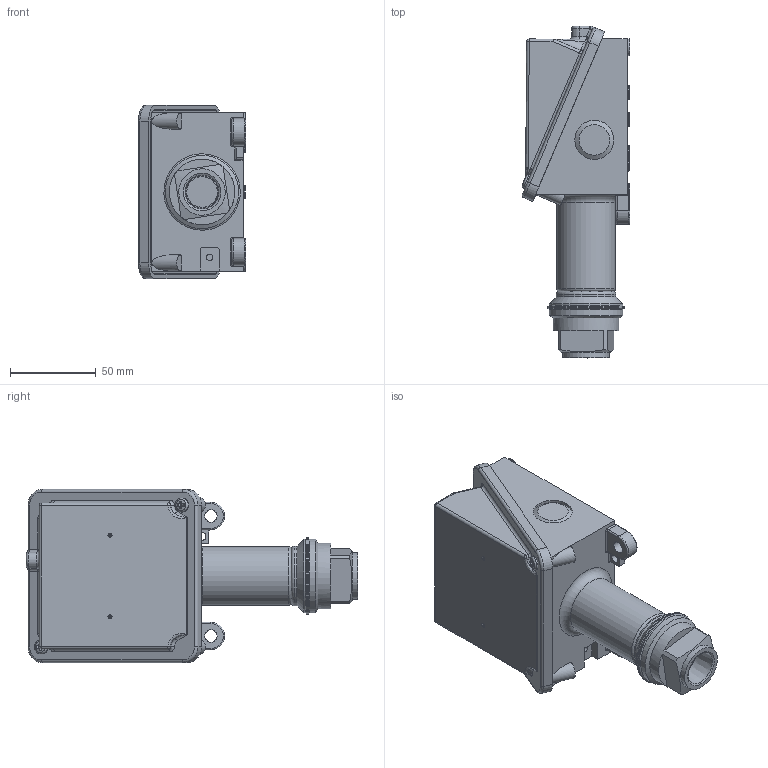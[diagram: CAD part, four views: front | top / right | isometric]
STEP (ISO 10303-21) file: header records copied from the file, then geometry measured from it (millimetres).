
FILE_DESCRIPTION (( 'STEP AP214' ), '1' );
FILE_NAME ('H100-171_174_V2.STEP', '2025-02-28T13:51:30', ( '' ), ( '' ), 'SwSTEP 2.0', 'SolidWorks 2023', '' );
FILE_SCHEMA (( 'AUTOMOTIVE_DESIGN' ));
Length unit declared in the file: inch
Products named in the file (1): H100-171_174_V2
Bounding box: 62.62 x 193.17 x 100.84 mm (x, y, z)
Surface area: 63959.6 mm2 (no closed solid volume)
Topology: 0 solids, 8 shells, 268 faces, 655 edges, 397 vertices
Faces by surface type: cylinder 96, plane 89, torus 43, bspline 18, cone 12, sphere 10
Full cylindrical faces by diameter (mm): 1.321 x2, 3.797 x1, 4.763 x1, 7.112 x2, 7.937 x2, 7.938 x2, 8.179 x2, 9.525 x2, 22.733 x2, 26.987 x1, 34.131 x1, 34.925 x1, 38.1 x1, 42.736 x1, 42.748 x1, 44.45 x3
Entity records: 8131 total; most frequent: CARTESIAN_POINT 2166, DIRECTION 1306, ORIENTED_EDGE 1107, EDGE_CURVE 589, AXIS2_PLACEMENT_3D 535, VERTEX_POINT 391, EDGE_LOOP 350, FACE_OUTER_BOUND 310
